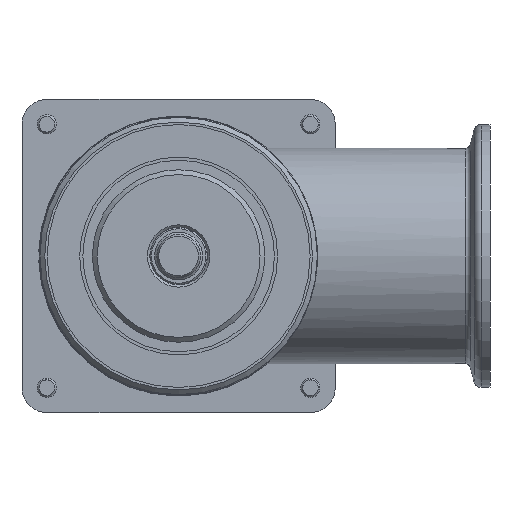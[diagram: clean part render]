
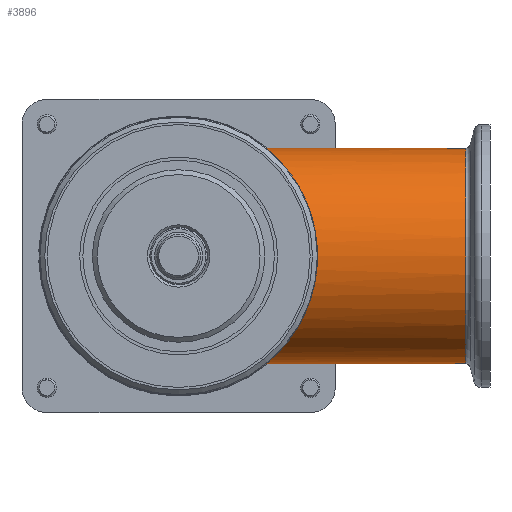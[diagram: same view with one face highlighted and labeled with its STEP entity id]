
A CAD part, front view. The second image highlights one B-rep face of the part: STEP entity #3896.
In plain terms, the highlighted cylindrical face has radius 22.5 mm (diameter 45 mm), a full revolution.
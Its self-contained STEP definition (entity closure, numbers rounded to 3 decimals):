
#1345=B_SPLINE_CURVE_WITH_KNOTS('',3,(#13696,#13697,#13698,#13699,#13700,
#13701,#13702,#13703,#13704,#13705,#13706,#13707,#13708,#13709,#13710,#13711,
#13712,#13713,#13714,#13715,#13716,#13717,#13718,#13719,#13720,#13721,#13722,
#13723,#13724,#13725,#13726,#13727,#13728,#13729),.UNSPECIFIED.,.T.,.F.,
(2,2,2,2,2,2,2,2,2,2,2,2,2,2,2,2,2,2,2),(-0.063,0.,0.063,0.125,0.188,
0.25,0.313,0.375,0.438,0.5,0.563,0.625,0.688,0.75,0.813,0.875,0.938,
1.,1.063),.UNSPECIFIED.);
#3311=CYLINDRICAL_SURFACE('',#10171,22.5);
#3551=FACE_BOUND('',#5069,.T.);
#3552=FACE_BOUND('',#5070,.T.);
#3896=ADVANCED_FACE('',(#3551,#3552),#3311,.T.);
#5069=EDGE_LOOP('',(#5944));
#5070=EDGE_LOOP('',(#5945));
#5944=ORIENTED_EDGE('',*,*,#8715,.T.);
#5945=ORIENTED_EDGE('',*,*,#8716,.F.);
#7895=VERTEX_POINT('',#13695);
#7896=VERTEX_POINT('',#13730);
#8715=EDGE_CURVE('',#7895,#7895,#9714,.T.);
#8716=EDGE_CURVE('',#7896,#7896,#1345,.T.);
#9714=CIRCLE('',#10170,22.5);
#10170=AXIS2_PLACEMENT_3D('',#13694,#11295,#11296);
#10171=AXIS2_PLACEMENT_3D('',#13731,#11297,#11298);
#11295=DIRECTION('',(1.,0.,0.));
#11296=DIRECTION('',(0.,0.,1.));
#11297=DIRECTION('',(-1.,0.,0.));
#11298=DIRECTION('',(0.,0.,1.));
#13694=CARTESIAN_POINT('',(5.094,0.,0.));
#13695=CARTESIAN_POINT('',(5.094,0.,22.5));
#13696=CARTESIAN_POINT('',(46.704,3.147,22.5));
#13697=CARTESIAN_POINT('',(46.704,-3.147,22.5));
#13698=CARTESIAN_POINT('',(45.846,-6.147,21.834));
#13699=CARTESIAN_POINT('',(43.559,-11.43,19.592));
#13700=CARTESIAN_POINT('',(42.145,-13.78,18.006));
#13701=CARTESIAN_POINT('',(39.533,-17.78,14.071));
#13702=CARTESIAN_POINT('',(38.305,-19.454,11.69));
#13703=CARTESIAN_POINT('',(36.531,-21.826,6.225));
#13704=CARTESIAN_POINT('',(36.003,-22.496,3.124));
#13705=CARTESIAN_POINT('',(35.997,-22.504,-3.066));
#13706=CARTESIAN_POINT('',(36.514,-21.847,-6.153));
#13707=CARTESIAN_POINT('',(38.28,-19.489,-11.633));
#13708=CARTESIAN_POINT('',(39.511,-17.811,-14.034));
#13709=CARTESIAN_POINT('',(42.132,-13.802,-17.991));
#13710=CARTESIAN_POINT('',(43.543,-11.46,-19.575));
#13711=CARTESIAN_POINT('',(45.84,-6.169,-21.828));
#13712=CARTESIAN_POINT('',(46.703,-3.139,-22.499));
#13713=CARTESIAN_POINT('',(46.705,3.129,-22.501));
#13714=CARTESIAN_POINT('',(45.847,6.148,-21.834));
#13715=CARTESIAN_POINT('',(43.552,11.444,-19.585));
#13716=CARTESIAN_POINT('',(42.145,13.78,-18.007));
#13717=CARTESIAN_POINT('',(39.533,17.779,-14.072));
#13718=CARTESIAN_POINT('',(38.308,19.45,-11.7));
#13719=CARTESIAN_POINT('',(36.526,21.832,-6.209));
#13720=CARTESIAN_POINT('',(36.003,22.496,-3.117));
#13721=CARTESIAN_POINT('',(35.997,22.504,3.063));
#13722=CARTESIAN_POINT('',(36.513,21.848,6.152));
#13723=CARTESIAN_POINT('',(38.286,19.481,11.649));
#13724=CARTESIAN_POINT('',(39.518,17.802,14.045));
#13725=CARTESIAN_POINT('',(42.136,13.796,17.995));
#13726=CARTESIAN_POINT('',(43.55,11.448,19.582));
#13727=CARTESIAN_POINT('',(45.844,6.156,21.831));
#13728=CARTESIAN_POINT('',(46.704,3.147,22.5));
#13729=CARTESIAN_POINT('',(46.704,-3.147,22.5));
#13730=CARTESIAN_POINT('',(46.704,0.,22.5));
#13731=CARTESIAN_POINT('',(0.,0.,0.));
